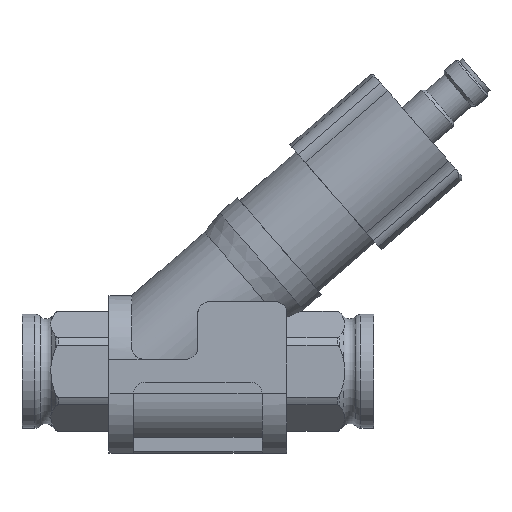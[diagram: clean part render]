
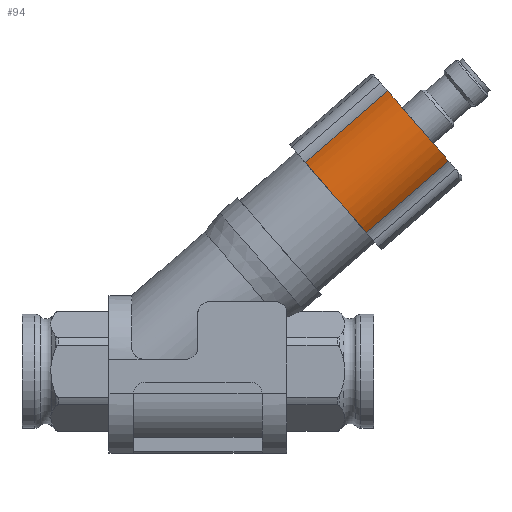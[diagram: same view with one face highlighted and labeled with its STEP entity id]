
A CAD part, top view. The second image highlights one B-rep face of the part: STEP entity #94.
In plain terms, the highlighted cylindrical face has radius 15 mm (diameter 30 mm), a partial arc.
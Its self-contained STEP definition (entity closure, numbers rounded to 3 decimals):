
#94 = ADVANCED_FACE( '', ( #283 ), #284, .T. );
#283 = FACE_OUTER_BOUND( '', #645, .T. );
#284 = CYLINDRICAL_SURFACE( '', #646, 15. );
#645 = EDGE_LOOP( '', ( #1083, #1084, #1085, #1086, #1087, #1088 ) );
#646 = AXIS2_PLACEMENT_3D( '', #1089, #1090, #1091 );
#1083 = ORIENTED_EDGE( '', *, *, #2282, .T. );
#1084 = ORIENTED_EDGE( '', *, *, #2283, .F. );
#1085 = ORIENTED_EDGE( '', *, *, #2284, .T. );
#1086 = ORIENTED_EDGE( '', *, *, #2285, .T. );
#1087 = ORIENTED_EDGE( '', *, *, #2286, .T. );
#1088 = ORIENTED_EDGE( '', *, *, #2279, .T. );
#1089 = CARTESIAN_POINT( '', ( 78.5, 43.464, 0. ) );
#1090 = DIRECTION( '', ( -0.755, -0.656, 0. ) );
#1091 = DIRECTION( '', ( -0.656, 0.755, 0. ) );
#2279 = EDGE_CURVE( '', #2707, #2708, #2709, .T. );
#2282 = EDGE_CURVE( '', #2708, #2712, #2713, .T. );
#2283 = EDGE_CURVE( '', #2714, #2712, #2715, .T. );
#2284 = EDGE_CURVE( '', #2714, #2716, #2717, .T. );
#2285 = EDGE_CURVE( '', #2716, #2718, #2719, .T. );
#2286 = EDGE_CURVE( '', #2718, #2707, #2720, .T. );
#2707 = VERTEX_POINT( '', #3552 );
#2708 = VERTEX_POINT( '', #3553 );
#2709 = LINE( '', #3554, #3555 );
#2712 = VERTEX_POINT( '', #3558 );
#2713 = CIRCLE( '', #3559, 15. );
#2714 = VERTEX_POINT( '', #3560 );
#2715 = LINE( '', #3561, #3562 );
#2716 = VERTEX_POINT( '', #3563 );
#2717 = CIRCLE( '', #3564, 15. );
#2718 = VERTEX_POINT( '', #3565 );
#2719 = LINE( '', #3566, #3567 );
#2720 = CIRCLE( '', #3568, 15. );
#3552 = CARTESIAN_POINT( '', ( 86.164, 34.701, 9.459 ) );
#3553 = CARTESIAN_POINT( '', ( 106.768, 52.612, 9.459 ) );
#3554 = CARTESIAN_POINT( '', ( 86.137, 34.678, 9.459 ) );
#3555 = VECTOR( '', #4995, 1000. );
#3558 = CARTESIAN_POINT( '', ( 91.493, 70.184, 9.459 ) );
#3559 = AXIS2_PLACEMENT_3D( '', #5002, #5003, #5004 );
#3560 = CARTESIAN_POINT( '', ( 70.862, 52.25, 9.459 ) );
#3561 = CARTESIAN_POINT( '', ( 70.862, 52.25, 9.459 ) );
#3562 = VECTOR( '', #5005, 1000. );
#3563 = CARTESIAN_POINT( '', ( 78.454, 43.517, 15. ) );
#3564 = AXIS2_PLACEMENT_3D( '', #5006, #5007, #5008 );
#3565 = CARTESIAN_POINT( '', ( 78.481, 43.54, 15. ) );
#3566 = CARTESIAN_POINT( '', ( 88.774, 52.488, 15. ) );
#3567 = VECTOR( '', #5009, 1000. );
#3568 = AXIS2_PLACEMENT_3D( '', #5010, #5011, #5012 );
#4995 = DIRECTION( '', ( 0.755, 0.656, 0. ) );
#5002 = CARTESIAN_POINT( '', ( 99.13, 61.398, 0. ) );
#5003 = DIRECTION( '', ( -0.755, -0.656, 0. ) );
#5004 = DIRECTION( '', ( 0.656, -0.755, 0. ) );
#5005 = DIRECTION( '', ( 0.755, 0.656, 0. ) );
#5006 = CARTESIAN_POINT( '', ( 78.5, 43.464, 0. ) );
#5007 = DIRECTION( '', ( 0.755, 0.656, 0. ) );
#5008 = DIRECTION( '', ( 0., 0., -1. ) );
#5009 = DIRECTION( '', ( 0.755, 0.656, 0. ) );
#5010 = CARTESIAN_POINT( '', ( 78.527, 43.487, 0. ) );
#5011 = DIRECTION( '', ( 0.755, 0.656, 0. ) );
#5012 = DIRECTION( '', ( -0.656, 0.755, 0. ) );
